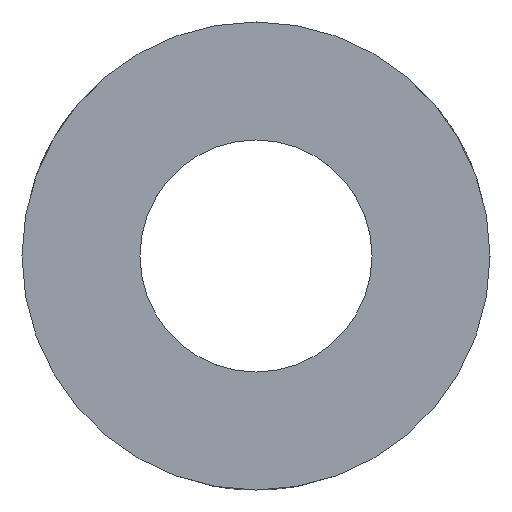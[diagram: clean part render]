
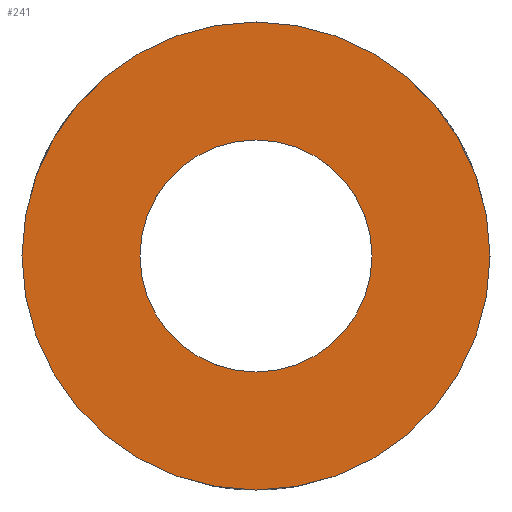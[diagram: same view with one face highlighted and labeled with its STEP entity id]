
A CAD part, front view. The second image highlights one B-rep face of the part: STEP entity #241.
In plain terms, the highlighted planar face has unit normal (0, -1, 0).
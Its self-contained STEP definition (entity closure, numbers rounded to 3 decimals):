
#20=PLANE('',#264);
#30=CIRCLE('',#263,17.145);
#31=CIRCLE('',#265,8.5);
#48=ORIENTED_EDGE('',*,*,#73,.T.);
#49=ORIENTED_EDGE('',*,*,#72,.T.);
#72=EDGE_CURVE('',#86,#86,#30,.T.);
#73=EDGE_CURVE('',#87,#87,#31,.T.);
#86=VERTEX_POINT('',#1465);
#87=VERTEX_POINT('',#1468);
#110=EDGE_LOOP('',(#48));
#111=EDGE_LOOP('',(#49));
#138=FACE_BOUND('',#110,.T.);
#139=FACE_BOUND('',#111,.T.);
#241=ADVANCED_FACE('',(#138,#139),#20,.F.);
#263=AXIS2_PLACEMENT_3D('',#1464,#295,#296);
#264=AXIS2_PLACEMENT_3D('',#1466,#297,#298);
#265=AXIS2_PLACEMENT_3D('',#1467,#299,#300);
#295=DIRECTION('',(0.,-1.,0.));
#296=DIRECTION('',(0.,0.,-1.));
#297=DIRECTION('',(0.,1.,0.));
#298=DIRECTION('',(0.,0.,1.));
#299=DIRECTION('',(0.,1.,0.));
#300=DIRECTION('',(0.,0.,-1.));
#1464=CARTESIAN_POINT('',(0.,-85.789,0.));
#1465=CARTESIAN_POINT('',(0.,-85.789,-17.145));
#1466=CARTESIAN_POINT('',(0.,-85.789,17.145));
#1467=CARTESIAN_POINT('',(0.,-85.789,0.));
#1468=CARTESIAN_POINT('',(0.,-85.789,-8.5));
